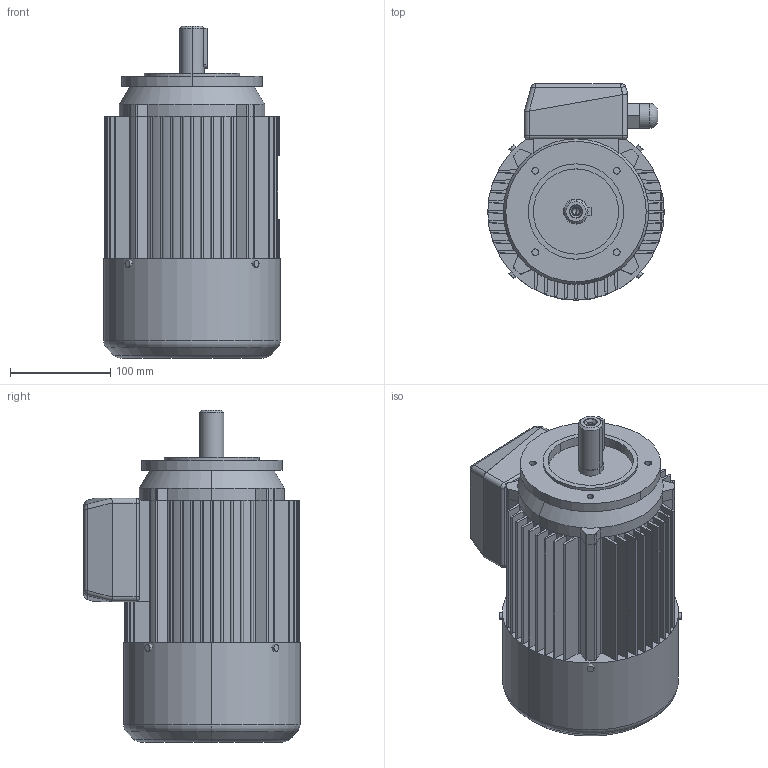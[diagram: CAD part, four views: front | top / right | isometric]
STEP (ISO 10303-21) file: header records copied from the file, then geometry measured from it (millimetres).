
FILE_DESCRIPTION (( 'STEP AP203' ), '1' );
FILE_NAME ('SKh 90L-B14-C2.STEP', '2010-02-09T12:26:25', ( 'INDUKTA' ), ( 'CANTONI MOTOR' ), 'SwSTEP 2.0', 'SolidWorks 2003064', '' );
FILE_SCHEMA (( 'CONFIG_CONTROL_DESIGN' ));
Length unit declared in the file: millimetre
Products named in the file (1): SKh 90L-B14-C2
Bounding box: 176 x 215.5 x 331 mm (x, y, z)
Volume: 6186521 mm3; surface area: 454952 mm2
Topology: 11 solids, 11 shells, 483 faces, 1277 edges, 828 vertices
Faces by surface type: plane 235, cylinder 178, bspline 42, cone 14, torus 10, sphere 4
Entity records: 17874 total; most frequent: CARTESIAN_POINT 5830, ORIENTED_EDGE 2542, DIRECTION 2454, EDGE_CURVE 1271, AXIS2_PLACEMENT_3D 836, VERTEX_POINT 828, VECTOR 782, LINE 782
